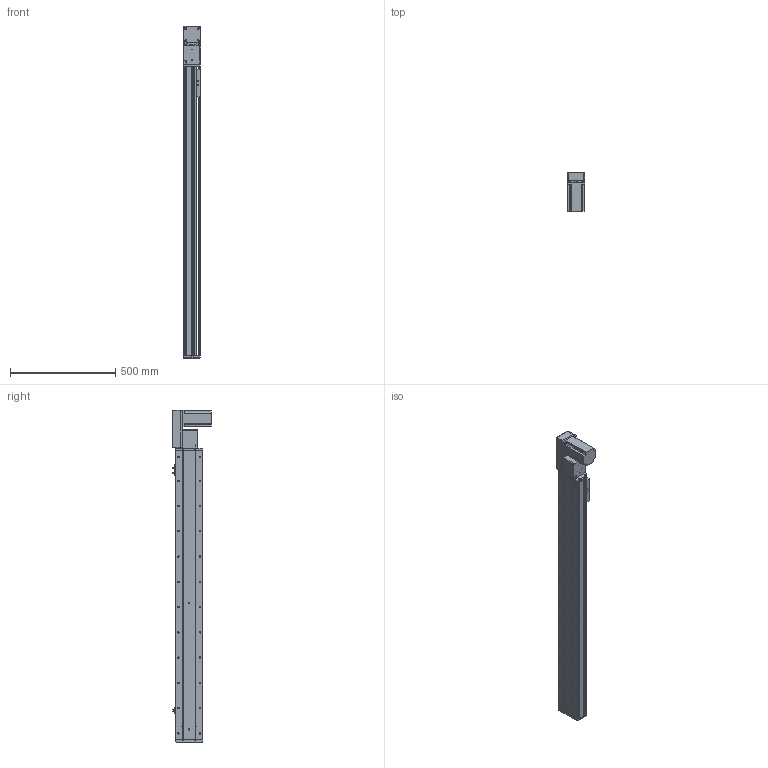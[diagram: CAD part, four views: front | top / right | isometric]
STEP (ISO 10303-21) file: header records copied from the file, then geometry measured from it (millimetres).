
FILE_DESCRIPTION (( 'STEP AP214' ), '1' );
FILE_NAME ('KSD130B-S1150-MRB-CM.STEP', '2019-11-15T07:32:36', ( '微软用户' ), ( '微软中国' ), 'SwSTEP 2.0', 'SolidWorks 2014', '' );
FILE_SCHEMA (( 'AUTOMOTIVE_DESIGN' ));
Length unit declared in the file: millimetre
Products named in the file (12): KSD130B-S1150-MRB-CM; 台达ECMA－C20807AS伺服电机; 130宽模组保护罩上下左右折-同步带; 130宽模组马达安装板连板左右折同步带; 覜茼え100遵圉猾敕; U倰嫖萇EEㄜSX672; 130宽盖板半封闭同步带-1150行程; 130宽马达安装板同步带右-改镜向_默认<按加工>; 130宽马达安装板同步带半封闭; 130宽同步带安装座半封闭; 130宽端盖同步带半封闭; 130宽底板半封闭同步带-1150行程
Assembly tree (13 placements, depth 2):
  KSD130B-S1150-MRB-CM
    130宽底板半封闭同步带-1150行程
    130宽端盖同步带半封闭
    130宽同步带安装座半封闭
    130宽马达安装板同步带半封闭
    130宽马达安装板同步带右-改镜向_默认<按加工>
    130宽盖板半封闭同步带-1150行程
    U倰嫖萇EEㄜSX672  x3
    覜茼え100遵圉猾敕
    130宽模组马达安装板连板左右折同步带
    130宽模组保护罩上下左右折-同步带
    台达ECMA－C20807AS伺服电机
Bounding box: 81 x 184.8 x 1577 mm (x, y, z)
Volume: 5392854.3 mm3; surface area: 1486102.2 mm2
Topology: 14 solids, 14 shells, 1577 faces, 4521 edges, 2881 vertices
Faces by surface type: cylinder 760, plane 630, cone 187
Entity records: 52299 total; most frequent: CARTESIAN_POINT 9798, DIRECTION 7939, ORIENTED_EDGE 7654, EDGE_CURVE 3827, AXIS2_PLACEMENT_3D 2902, VERTEX_POINT 2505, VECTOR 2135, LINE 2135
